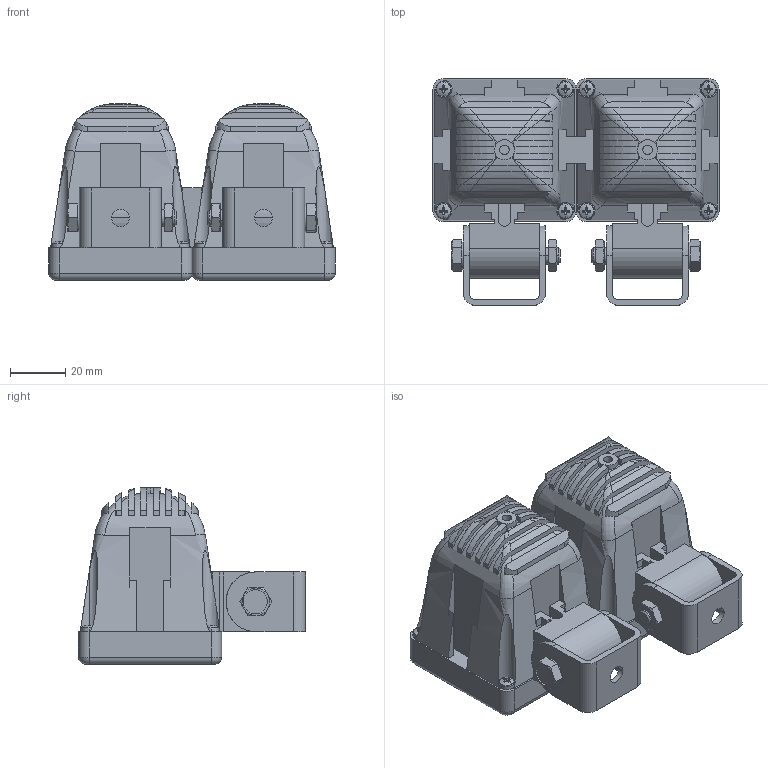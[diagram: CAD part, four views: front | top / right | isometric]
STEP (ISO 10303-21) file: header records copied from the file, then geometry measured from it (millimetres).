
FILE_DESCRIPTION (( 'STEP AP214' ), '1' );
FILE_NAME ('LED10W-2S.STEP', '2019-10-01T20:39:03', ( '' ), ( '' ), 'SwSTEP 2.0', 'SolidWorks 2016', '' );
FILE_SCHEMA (( 'AUTOMOTIVE_DESIGN' ));
Length unit declared in the file: inch
Products named in the file (6): hex nut jam_am_B18.2.4.5M - Hex jam nut,  M6 x 1 --D-N; formed hex screw_am_B18.2.3.2M - Formed hex screw, M6 x 1.0 x 35 --18WN; pan cross head_am_B18.6.7M - M3 x 0.5 x 4 Type I Cross Recessed PHMS --4N; Part1^LED10W-2S-VIR-Black-Flood-850 part b; LED10W-2S-VIR-Black-Flood-850; LED10W-2S
Assembly tree (15 placements, depth 2):
  LED10W-2S
    LED10W-2S-VIR-Black-Flood-850  x2
    Part1^LED10W-2S-VIR-Black-Flood-850 part b
    pan cross head_am_B18.6.7M - M3 x 0.5 x 4 Type I Cross Recessed PHMS --4N  x8
    formed hex screw_am_B18.2.3.2M - Formed hex screw, M6 x 1.0 x 35 --18WN  x2
    hex nut jam_am_B18.2.4.5M - Hex jam nut,  M6 x 1 --D-N  x2
Bounding box: 103.63 x 82.17 x 63.88 mm (x, y, z)
Volume: 254083 mm3; surface area: 50433.8 mm2
Topology: 15 solids, 15 shells, 784 faces, 2010 edges, 1248 vertices
Faces by surface type: plane 382, cylinder 170, bspline 116, cone 72, torus 28, sphere 16
Entity records: 32021 total; most frequent: CARTESIAN_POINT 24356, ORIENTED_EDGE 1714, DIRECTION 1267, EDGE_CURVE 857, VERTEX_POINT 546, AXIS2_PLACEMENT_3D 471, B_SPLINE_CURVE_WITH_KNOTS 351, EDGE_LOOP 345
